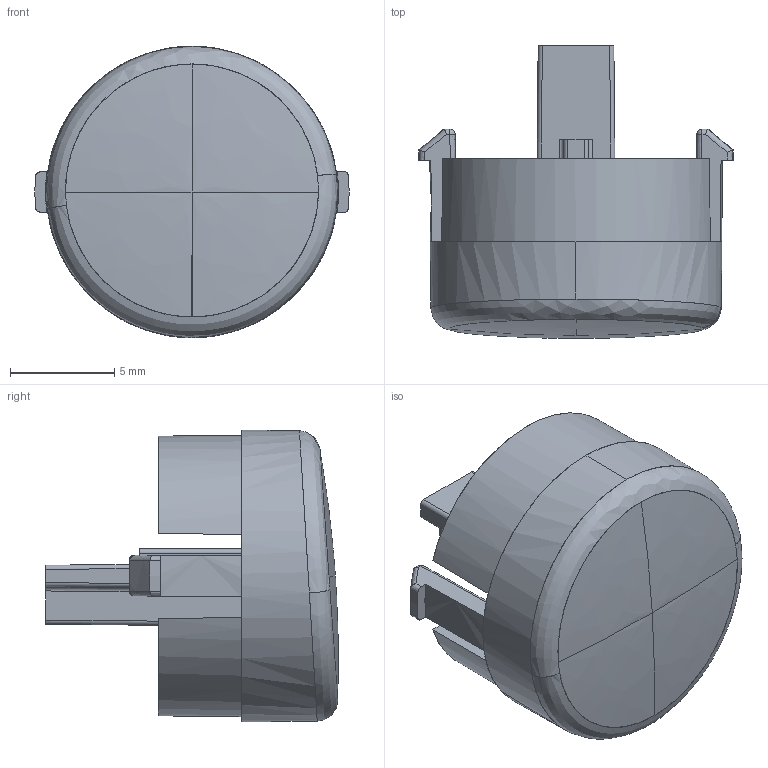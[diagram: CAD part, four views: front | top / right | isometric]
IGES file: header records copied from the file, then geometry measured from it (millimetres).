
Start section: Comment
Global section: file name: 148037194.igs; native system:  By UGS Corp.; preprocessor: XPlus GENERIC/IGES 3.0; author: Author; organization: Title; date: 20080207.150446; units: millimetre
Bounding box: 15.09 x 14.04 x 14 mm (x, y, z)
Surface area: 1028 mm2 (no closed solid volume)
Topology: 0 solids, 0 shells, 126 faces, 680 edges, 662 vertices
Faces by surface type: bspline 126
